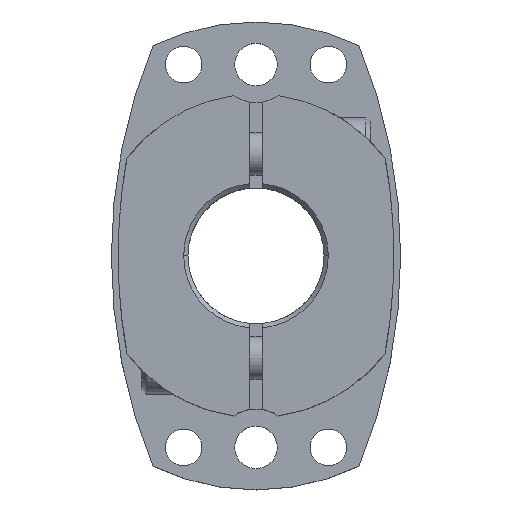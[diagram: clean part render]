
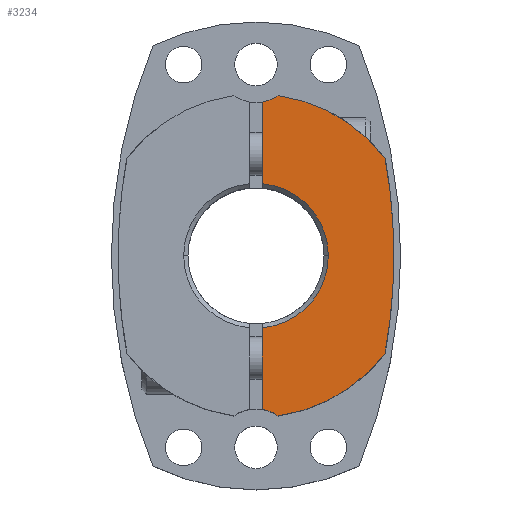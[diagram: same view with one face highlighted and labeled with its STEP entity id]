
A CAD part, top view. The second image highlights one B-rep face of the part: STEP entity #3234.
In plain terms, the highlighted planar face has unit normal (0, 0, 1).
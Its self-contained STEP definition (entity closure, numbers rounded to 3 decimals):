
#225=CARTESIAN_POINT('',(8.5,0.,17.0));
#226=VERTEX_POINT('',#225);
#235=CARTESIAN_POINT('',(0.75,8.467,17.0));
#236=VERTEX_POINT('',#235);
#237=CARTESIAN_POINT('',(0.0,0.,17.0));
#238=DIRECTION('',(0.0,0.0,1.0));
#239=DIRECTION('',(-1.0,0.0,0.0));
#240=AXIS2_PLACEMENT_3D('',#237,#238,#239);
#241=CIRCLE('',#240,8.5);
#242=EDGE_CURVE('',#226,#236,#241,.T.);
#537=CARTESIAN_POINT('',(16.2,0.,17.0));
#538=VERTEX_POINT('',#537);
#646=CARTESIAN_POINT('',(15.173,11.435,17.0));
#647=VERTEX_POINT('',#646);
#654=CARTESIAN_POINT('',(-48.,0.,17.0));
#655=DIRECTION('',(0.0,0.0,-1.0));
#656=DIRECTION('',(1.0,0.0,0.0));
#657=AXIS2_PLACEMENT_3D('',#654,#655,#656);
#658=CIRCLE('',#657,64.2);
#659=EDGE_CURVE('',#647,#538,#658,.T.);
#2305=CARTESIAN_POINT('',(2.593,18.822,17.0));
#2306=VERTEX_POINT('',#2305);
#2313=CARTESIAN_POINT('',(0.,0.,17.0));
#2314=DIRECTION('',(0.0,0.0,-1.0));
#2315=DIRECTION('',(1.0,0.0,0.0));
#2316=AXIS2_PLACEMENT_3D('',#2313,#2314,#2315);
#2317=CIRCLE('',#2316,19.);
#2318=EDGE_CURVE('',#2306,#647,#2317,.T.);
#2531=CARTESIAN_POINT('',(15.173,-11.435,17.0));
#2532=VERTEX_POINT('',#2531);
#2533=CARTESIAN_POINT('',(-48.,0.,17.0));
#2534=DIRECTION('',(0.0,0.0,-1.0));
#2535=DIRECTION('',(1.0,0.0,0.0));
#2536=AXIS2_PLACEMENT_3D('',#2533,#2534,#2535);
#2537=CIRCLE('',#2536,64.2);
#2538=EDGE_CURVE('',#538,#2532,#2537,.T.);
#2747=CARTESIAN_POINT('',(0.75,18.063,17.0));
#2748=VERTEX_POINT('',#2747);
#2755=CARTESIAN_POINT('',(0.,22.5,17.0));
#2756=DIRECTION('',(0.0,0.0,-1.0));
#2757=DIRECTION('',(1.0,0.0,0.0));
#2758=AXIS2_PLACEMENT_3D('',#2755,#2756,#2757);
#2759=CIRCLE('',#2758,4.5);
#2760=EDGE_CURVE('',#2306,#2748,#2759,.T.);
#2772=CARTESIAN_POINT('',(0.75,-18.063,17.0));
#2773=VERTEX_POINT('',#2772);
#2789=CARTESIAN_POINT('',(2.593,-18.822,17.0));
#2790=VERTEX_POINT('',#2789);
#2797=CARTESIAN_POINT('',(0.,-22.5,17.0));
#2798=DIRECTION('',(0.0,0.0,-1.0));
#2799=DIRECTION('',(1.0,0.0,0.0));
#2800=AXIS2_PLACEMENT_3D('',#2797,#2798,#2799);
#2801=CIRCLE('',#2800,4.5);
#2802=EDGE_CURVE('',#2773,#2790,#2801,.T.);
#3156=CARTESIAN_POINT('',(0.75,-8.467,17.0));
#3157=VERTEX_POINT('',#3156);
#3158=CARTESIAN_POINT('',(0.75,-8.467,17.0));
#3159=DIRECTION('',(0.0,-1.0,0.0));
#3160=VECTOR('',#3159,9.596);
#3161=LINE('',#3158,#3160);
#3162=EDGE_CURVE('',#3157,#2773,#3161,.T.);
#3200=CARTESIAN_POINT('',(0.,0.,17.0));
#3201=DIRECTION('',(0.0,0.0,1.0));
#3202=DIRECTION('',(1.0,0.0,0.0));
#3203=AXIS2_PLACEMENT_3D('',#3200,#3201,#3202);
#3204=PLANE('',#3203);
#3205=ORIENTED_EDGE('',*,*,#2760,.T.);
#3206=CARTESIAN_POINT('',(0.75,18.063,17.0));
#3207=DIRECTION('',(0.0,-1.0,0.0));
#3208=VECTOR('',#3207,9.596);
#3209=LINE('',#3206,#3208);
#3210=EDGE_CURVE('',#2748,#236,#3209,.T.);
#3211=ORIENTED_EDGE('',*,*,#3210,.T.);
#3212=ORIENTED_EDGE('',*,*,#242,.F.);
#3213=CARTESIAN_POINT('',(0.0,0.,17.0));
#3214=DIRECTION('',(0.0,0.0,1.0));
#3215=DIRECTION('',(-1.0,0.0,0.0));
#3216=AXIS2_PLACEMENT_3D('',#3213,#3214,#3215);
#3217=CIRCLE('',#3216,8.5);
#3218=EDGE_CURVE('',#3157,#226,#3217,.T.);
#3219=ORIENTED_EDGE('',*,*,#3218,.F.);
#3220=ORIENTED_EDGE('',*,*,#3162,.T.);
#3221=ORIENTED_EDGE('',*,*,#2802,.T.);
#3222=CARTESIAN_POINT('',(0.,0.0,17.0));
#3223=DIRECTION('',(0.0,0.0,-1.0));
#3224=DIRECTION('',(1.0,0.0,0.0));
#3225=AXIS2_PLACEMENT_3D('',#3222,#3223,#3224);
#3226=CIRCLE('',#3225,19.);
#3227=EDGE_CURVE('',#2532,#2790,#3226,.T.);
#3228=ORIENTED_EDGE('',*,*,#3227,.F.);
#3229=ORIENTED_EDGE('',*,*,#2538,.F.);
#3230=ORIENTED_EDGE('',*,*,#659,.F.);
#3231=ORIENTED_EDGE('',*,*,#2318,.F.);
#3232=EDGE_LOOP('',(#3205,#3211,#3212,#3219,#3220,#3221,#3228,#3229,#3230,#3231));
#3233=FACE_OUTER_BOUND('',#3232,.T.);
#3234=ADVANCED_FACE('',(#3233),#3204,.T.);
